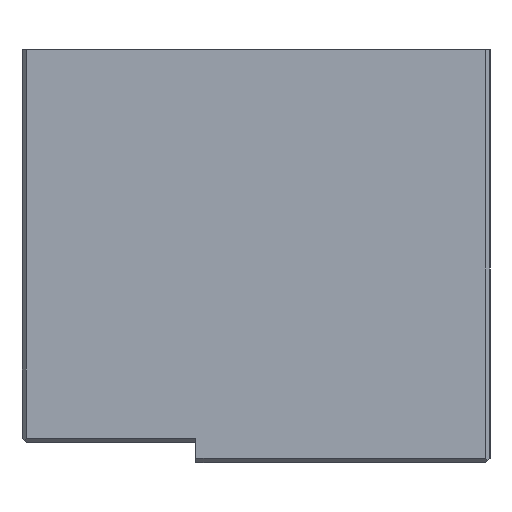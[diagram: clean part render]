
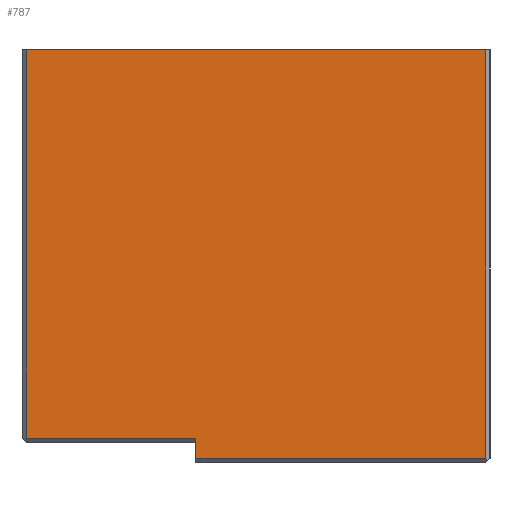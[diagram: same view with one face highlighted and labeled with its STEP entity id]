
A CAD part, left-side view. The second image highlights one B-rep face of the part: STEP entity #787.
In plain terms, the highlighted planar face has unit normal (-1, 0, 0).
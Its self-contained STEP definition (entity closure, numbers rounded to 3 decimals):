
#61=FACE_OUTER_BOUND('',#105,.T.);
#105=EDGE_LOOP('',(#578,#579,#580,#581,#582,#583));
#157=LINE('',#1157,#251);
#163=LINE('',#1179,#257);
#171=LINE('',#1195,#265);
#174=LINE('',#1201,#268);
#179=LINE('',#1211,#273);
#180=LINE('',#1212,#274);
#251=VECTOR('',#929,10.);
#257=VECTOR('',#947,10.);
#265=VECTOR('',#961,10.);
#268=VECTOR('',#966,10.);
#273=VECTOR('',#973,10.);
#274=VECTOR('',#974,10.);
#342=VERTEX_POINT('',#1154);
#343=VERTEX_POINT('',#1156);
#353=VERTEX_POINT('',#1178);
#358=VERTEX_POINT('',#1194);
#360=VERTEX_POINT('',#1200);
#364=VERTEX_POINT('',#1210);
#421=EDGE_CURVE('',#342,#343,#157,.T.);
#432=EDGE_CURVE('',#343,#353,#163,.T.);
#440=EDGE_CURVE('',#353,#358,#171,.T.);
#443=EDGE_CURVE('',#360,#358,#174,.T.);
#448=EDGE_CURVE('',#364,#342,#179,.T.);
#449=EDGE_CURVE('',#360,#364,#180,.T.);
#578=ORIENTED_EDGE('',*,*,#432,.F.);
#579=ORIENTED_EDGE('',*,*,#421,.F.);
#580=ORIENTED_EDGE('',*,*,#448,.F.);
#581=ORIENTED_EDGE('',*,*,#449,.F.);
#582=ORIENTED_EDGE('',*,*,#443,.T.);
#583=ORIENTED_EDGE('',*,*,#440,.F.);
#756=PLANE('',#856);
#787=ADVANCED_FACE('',(#61),#756,.T.);
#856=AXIS2_PLACEMENT_3D('',#1209,#971,#972);
#929=DIRECTION('',(0.,-1.,0.));
#947=DIRECTION('',(0.,0.,-1.));
#961=DIRECTION('',(0.,1.,0.));
#966=DIRECTION('',(0.,0.,-1.));
#971=DIRECTION('center_axis',(-1.,0.,0.));
#972=DIRECTION('ref_axis',(0.,-1.,0.));
#973=DIRECTION('',(0.,0.,1.));
#974=DIRECTION('',(0.,1.,0.));
#1154=CARTESIAN_POINT('',(-18.,11.3,20.3));
#1156=CARTESIAN_POINT('',(-18.,-11.3,20.3));
#1157=CARTESIAN_POINT('',(-18.,11.5,20.3));
#1178=CARTESIAN_POINT('',(-18.,-11.3,0.2));
#1179=CARTESIAN_POINT('',(-18.,-11.3,0.));
#1194=CARTESIAN_POINT('',(-18.,2.95,0.2));
#1195=CARTESIAN_POINT('',(-18.,5.75,0.2));
#1200=CARTESIAN_POINT('',(-18.,2.95,1.2));
#1201=CARTESIAN_POINT('',(-18.,2.95,0.));
#1209=CARTESIAN_POINT('Origin',(-18.,11.5,0.));
#1210=CARTESIAN_POINT('',(-18.,11.3,1.2));
#1211=CARTESIAN_POINT('',(-18.,11.3,0.));
#1212=CARTESIAN_POINT('',(-18.,9.25,1.2));
